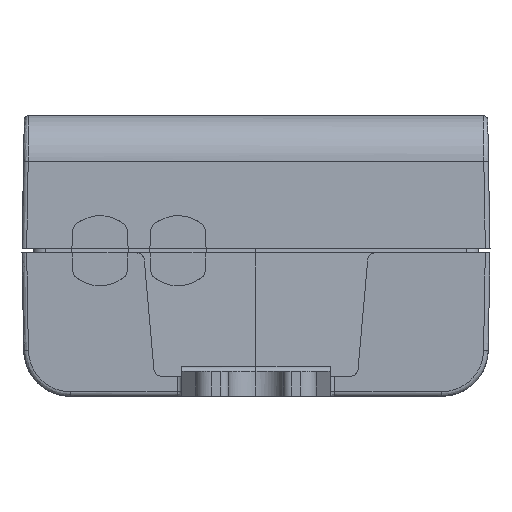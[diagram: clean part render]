
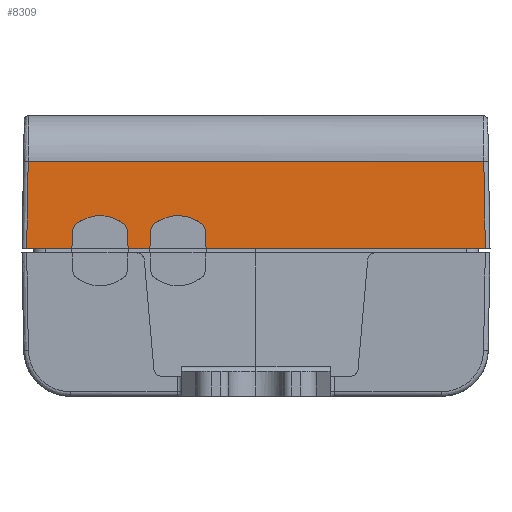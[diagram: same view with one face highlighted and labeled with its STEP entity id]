
A CAD part, left-side view. The second image highlights one B-rep face of the part: STEP entity #8309.
In plain terms, the highlighted planar face has unit normal (-1, 0, 0.018).
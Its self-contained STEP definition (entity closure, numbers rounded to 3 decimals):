
#2103=DIRECTION('',(0.,1.,0.));
#2104=VECTOR('',#2103,2.898);
#2105=CARTESIAN_POINT('',(8.352,26.802,9.5));
#2106=LINE('',#2105,#2104);
#2115=DIRECTION('',(0.,1.,0.));
#2116=VECTOR('',#2115,1.395);
#2117=CARTESIAN_POINT('',(8.352,21.802,9.5));
#2118=LINE('',#2117,#2116);
#2127=DIRECTION('',(0.,1.,0.));
#2128=VECTOR('',#2127,17.901);
#2129=CARTESIAN_POINT('',(8.352,0.297,9.5));
#2130=LINE('',#2129,#2128);
#2420=DIRECTION('',(0.017,-0.052,0.998));
#2421=VECTOR('',#2420,1.161);
#2422=CARTESIAN_POINT('',(8.352,26.802,9.5));
#2423=LINE('',#2422,#2421);
#2424=DIRECTION('',(-0.017,0.017,-1.));
#2425=VECTOR('',#2424,5.554);
#2426=CARTESIAN_POINT('',(8.449,29.603,15.052));
#2427=LINE('',#2426,#2425);
#2428=DIRECTION('',(0.017,0.017,1.));
#2429=VECTOR('',#2428,5.554);
#2430=CARTESIAN_POINT('',(8.352,0.297,9.5));
#2431=LINE('',#2430,#2429);
#2432=DIRECTION('',(-0.017,-0.052,-0.998));
#2433=VECTOR('',#2432,1.161);
#2434=CARTESIAN_POINT('',(8.372,18.258,10.659));
#2435=LINE('',#2434,#2433);
#2436=DIRECTION('',(0.017,-0.052,0.998));
#2437=VECTOR('',#2436,1.161);
#2438=CARTESIAN_POINT('',(8.352,21.802,9.5));
#2439=LINE('',#2438,#2437);
#2440=DIRECTION('',(-0.017,-0.052,-0.998));
#2441=VECTOR('',#2440,1.161);
#2442=CARTESIAN_POINT('',(8.372,23.258,10.659));
#2443=LINE('',#2442,#2441);
#2448=CARTESIAN_POINT('',(8.378,23.434,11.013));
#2449=CARTESIAN_POINT('',(8.38,23.581,11.139));
#2450=CARTESIAN_POINT('',(8.384,23.894,11.347));
#2451=CARTESIAN_POINT('',(8.387,24.433,11.546));
#2452=CARTESIAN_POINT('',(8.389,25.,11.612));
#2453=CARTESIAN_POINT('',(8.387,25.567,11.546));
#2454=CARTESIAN_POINT('',(8.384,26.106,11.347));
#2455=CARTESIAN_POINT('',(8.38,26.419,11.139));
#2456=CARTESIAN_POINT('',(8.378,26.566,11.013));
#2461=CARTESIAN_POINT('',(8.372,23.258,10.659));
#2467=CARTESIAN_POINT('',(8.372,23.258,10.659));
#2468=CARTESIAN_POINT('',(8.373,23.261,10.705));
#2469=CARTESIAN_POINT('',(8.374,23.278,10.793));
#2470=CARTESIAN_POINT('',(8.376,23.339,10.917));
#2471=CARTESIAN_POINT('',(8.378,23.398,10.984));
#2472=CARTESIAN_POINT('',(8.378,23.434,11.013));
#2510=CARTESIAN_POINT('',(8.378,26.566,11.013));
#2511=CARTESIAN_POINT('',(8.378,26.602,10.984));
#2512=CARTESIAN_POINT('',(8.376,26.661,10.917));
#2513=CARTESIAN_POINT('',(8.374,26.722,10.793));
#2514=CARTESIAN_POINT('',(8.373,26.739,10.705));
#2515=CARTESIAN_POINT('',(8.372,26.742,10.659));
#2523=CARTESIAN_POINT('',(8.352,29.7,9.5));
#2636=CARTESIAN_POINT('',(8.449,29.603,15.052));
#2637=CARTESIAN_POINT('',(8.449,19.867,15.052));
#2638=CARTESIAN_POINT('',(8.449,10.13,15.052));
#2639=CARTESIAN_POINT('',(8.449,0.394,15.052));
#3400=CARTESIAN_POINT('',(8.378,21.566,11.013));
#3401=CARTESIAN_POINT('',(8.378,21.602,10.984));
#3402=CARTESIAN_POINT('',(8.376,21.661,10.917));
#3403=CARTESIAN_POINT('',(8.374,21.722,10.793));
#3404=CARTESIAN_POINT('',(8.373,21.739,10.705));
#3405=CARTESIAN_POINT('',(8.372,21.742,10.659));
#3411=CARTESIAN_POINT('',(8.378,18.434,11.013));
#3412=CARTESIAN_POINT('',(8.38,18.581,11.139));
#3413=CARTESIAN_POINT('',(8.384,18.894,11.347));
#3414=CARTESIAN_POINT('',(8.387,19.433,11.546));
#3415=CARTESIAN_POINT('',(8.389,20.,11.612));
#3416=CARTESIAN_POINT('',(8.387,20.567,11.546));
#3417=CARTESIAN_POINT('',(8.384,21.106,11.347));
#3418=CARTESIAN_POINT('',(8.38,21.419,11.139));
#3419=CARTESIAN_POINT('',(8.378,21.566,11.013));
#3429=CARTESIAN_POINT('',(8.372,18.258,10.659));
#3430=CARTESIAN_POINT('',(8.373,18.261,10.705));
#3431=CARTESIAN_POINT('',(8.374,18.278,10.793));
#3432=CARTESIAN_POINT('',(8.376,18.339,10.917));
#3433=CARTESIAN_POINT('',(8.378,18.398,10.984));
#3434=CARTESIAN_POINT('',(8.378,18.434,11.013));
#5146=CARTESIAN_POINT('',(8.352,23.198,9.5));
#5148=VERTEX_POINT('',#5146);
#5150=CARTESIAN_POINT('',(8.352,21.802,9.5));
#5151=VERTEX_POINT('',#5150);
#5159=VERTEX_POINT('',#2523);
#5160=CARTESIAN_POINT('',(8.352,26.802,9.5));
#5161=VERTEX_POINT('',#5160);
#5180=CARTESIAN_POINT('',(8.352,18.198,9.5));
#5182=VERTEX_POINT('',#5180);
#5184=CARTESIAN_POINT('',(8.352,0.297,9.5));
#5185=VERTEX_POINT('',#5184);
#5190=VERTEX_POINT('',#2461);
#5191=VERTEX_POINT('',#2472);
#5192=VERTEX_POINT('',#2456);
#5193=VERTEX_POINT('',#2515);
#5194=VERTEX_POINT('',#3429);
#5195=VERTEX_POINT('',#3434);
#5198=VERTEX_POINT('',#3419);
#5199=VERTEX_POINT('',#3405);
#5200=CARTESIAN_POINT('',(8.449,29.603,15.052));
#5201=VERTEX_POINT('',#5200);
#5202=VERTEX_POINT('',#2639);
#8274=CARTESIAN_POINT('',(8.352,0.297,9.5));
#8275=DIRECTION('',(-1.,0.,0.017));
#8276=DIRECTION('',(0.017,0.,1.));
#8277=AXIS2_PLACEMENT_3D('',#8274,#8275,#8276);
#8278=PLANE('',#8277);
#8280=ORIENTED_EDGE('',*,*,#8279,.T.);
#8282=ORIENTED_EDGE('',*,*,#8281,.T.);
#8284=ORIENTED_EDGE('',*,*,#8283,.F.);
#8285=ORIENTED_EDGE('',*,*,#7836,.T.);
#8287=ORIENTED_EDGE('',*,*,#8286,.F.);
#8289=ORIENTED_EDGE('',*,*,#8288,.T.);
#8290=ORIENTED_EDGE('',*,*,#8266,.F.);
#8291=ORIENTED_EDGE('',*,*,#7852,.T.);
#8293=ORIENTED_EDGE('',*,*,#8292,.F.);
#8295=ORIENTED_EDGE('',*,*,#8294,.T.);
#8297=ORIENTED_EDGE('',*,*,#8296,.T.);
#8299=ORIENTED_EDGE('',*,*,#8298,.T.);
#8301=ORIENTED_EDGE('',*,*,#8300,.F.);
#8302=ORIENTED_EDGE('',*,*,#7844,.T.);
#8304=ORIENTED_EDGE('',*,*,#8303,.F.);
#8306=ORIENTED_EDGE('',*,*,#8305,.T.);
#8307=EDGE_LOOP('',(#8280,#8282,#8284,#8285,#8287,#8289,#8290,#8291,#8293,#8295,
#8297,#8299,#8301,#8302,#8304,#8306));
#8308=FACE_OUTER_BOUND('',#8307,.F.);
#2457=B_SPLINE_CURVE_WITH_KNOTS('',3,(#2448,#2449,#2450,#2451,#2452,#2453,#2454,
#2455,#2456),.UNSPECIFIED.,.F.,.F.,(4,1,1,1,1,1,4),(0.,0.167,
0.333,0.5,0.667,0.833,1.),
.UNSPECIFIED.);
#2473=B_SPLINE_CURVE_WITH_KNOTS('',3,(#2467,#2468,#2469,#2470,#2471,#2472),
.UNSPECIFIED.,.F.,.F.,(4,1,1,4),(0.,0.333,0.667,1.),
.UNSPECIFIED.);
#2516=B_SPLINE_CURVE_WITH_KNOTS('',3,(#2510,#2511,#2512,#2513,#2514,#2515),
.UNSPECIFIED.,.F.,.F.,(4,1,1,4),(0.,0.333,0.667,1.),
.UNSPECIFIED.);
#2640=B_SPLINE_CURVE_WITH_KNOTS('',3,(#2636,#2637,#2638,#2639),.UNSPECIFIED.,
.F.,.F.,(4,4),(0.,1.),.UNSPECIFIED.);
#3406=B_SPLINE_CURVE_WITH_KNOTS('',3,(#3400,#3401,#3402,#3403,#3404,#3405),
.UNSPECIFIED.,.F.,.F.,(4,1,1,4),(0.,0.333,0.667,1.),
.UNSPECIFIED.);
#3420=B_SPLINE_CURVE_WITH_KNOTS('',3,(#3411,#3412,#3413,#3414,#3415,#3416,#3417,
#3418,#3419),.UNSPECIFIED.,.F.,.F.,(4,1,1,1,1,1,4),(0.,0.167,
0.333,0.5,0.667,0.833,1.),
.UNSPECIFIED.);
#3435=B_SPLINE_CURVE_WITH_KNOTS('',3,(#3429,#3430,#3431,#3432,#3433,#3434),
.UNSPECIFIED.,.F.,.F.,(4,1,1,4),(0.,0.333,0.667,1.),
.UNSPECIFIED.);
#7836=EDGE_CURVE('',#5161,#5159,#2106,.T.);
#7844=EDGE_CURVE('',#5151,#5148,#2118,.T.);
#7852=EDGE_CURVE('',#5185,#5182,#2130,.T.);
#8266=EDGE_CURVE('',#5185,#5202,#2431,.T.);
#8279=EDGE_CURVE('',#5191,#5192,#2457,.T.);
#8281=EDGE_CURVE('',#5192,#5193,#2516,.T.);
#8283=EDGE_CURVE('',#5161,#5193,#2423,.T.);
#8286=EDGE_CURVE('',#5201,#5159,#2427,.T.);
#8288=EDGE_CURVE('',#5201,#5202,#2640,.T.);
#8292=EDGE_CURVE('',#5194,#5182,#2435,.T.);
#8294=EDGE_CURVE('',#5194,#5195,#3435,.T.);
#8296=EDGE_CURVE('',#5195,#5198,#3420,.T.);
#8298=EDGE_CURVE('',#5198,#5199,#3406,.T.);
#8300=EDGE_CURVE('',#5151,#5199,#2439,.T.);
#8303=EDGE_CURVE('',#5190,#5148,#2443,.T.);
#8305=EDGE_CURVE('',#5190,#5191,#2473,.T.);
#8309=ADVANCED_FACE('',(#8308),#8278,.T.);
